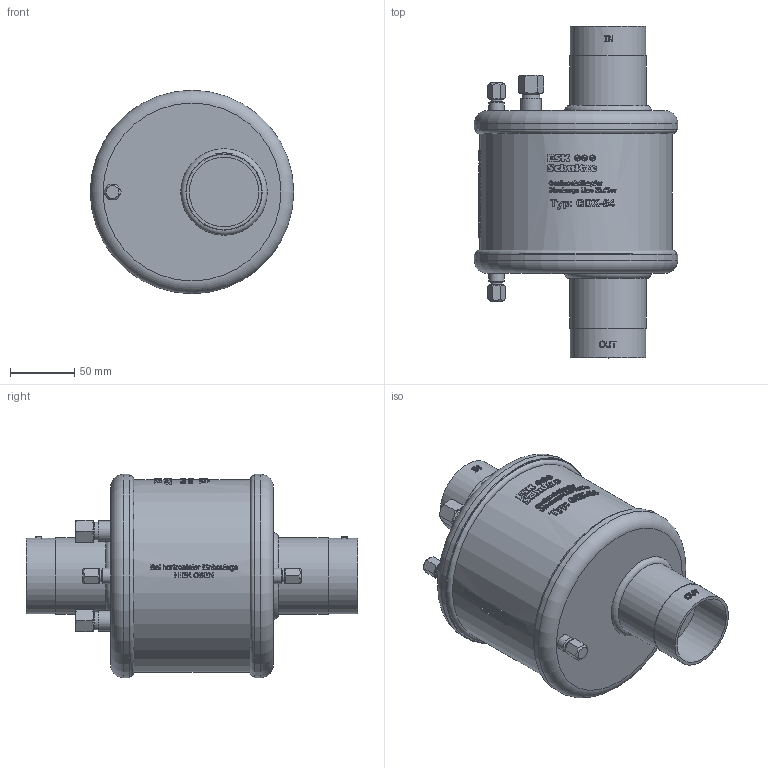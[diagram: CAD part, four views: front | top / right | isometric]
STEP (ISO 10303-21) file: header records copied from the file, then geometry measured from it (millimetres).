
FILE_DESCRIPTION(/* description */ (''),/* implementation_level */ '2;1');
FILE_NAME(/* name */ 'P:\GD\GDX-54\GDX-54.stp',/* time_stamp */ '2017-10-05T08:33:16+02:00',/* author */ ('neufeld'),/* organization */ (''),/* preprocessor_version */ 'ST-DEVELOPER v16.1',/* originating_system */ 'Autodesk Inventor 2016',/* authorisation */ '');
FILE_SCHEMA (('AUTOMOTIVE_DESIGN { 1 0 10303 214 3 1 1 }'));
Products named in the file (2): GDX-54; GDX-54_1
Assembly tree (1 placements, depth 2):
  GDX-54_1
    GDX-54
Bounding box: 158.8 x 259 x 158.8 mm (x, y, z)
Volume: 2530047.7 mm3; surface area: 141107.4 mm2
Topology: 1 solids, 1 shells, 1657 faces, 4451 edges, 2952 vertices
Faces by surface type: plane 870, bspline 580, cylinder 159, cone 40, torus 8
Full cylindrical faces by diameter (mm): 8.9 x2, 12 x2, 13.8 x2, 15.7 x2, 16 x2, 54.3 x2, 59 x2, 59.5 x2, 150 x1, 158.8 x2
Entity records: 63362 total; most frequent: CARTESIAN_POINT 25170, ORIENTED_EDGE 8800, DIRECTION 6406, EDGE_CURVE 4400, VERTEX_POINT 2944, AXIS2_PLACEMENT_3D 2158, LINE 2090, VECTOR 2090
